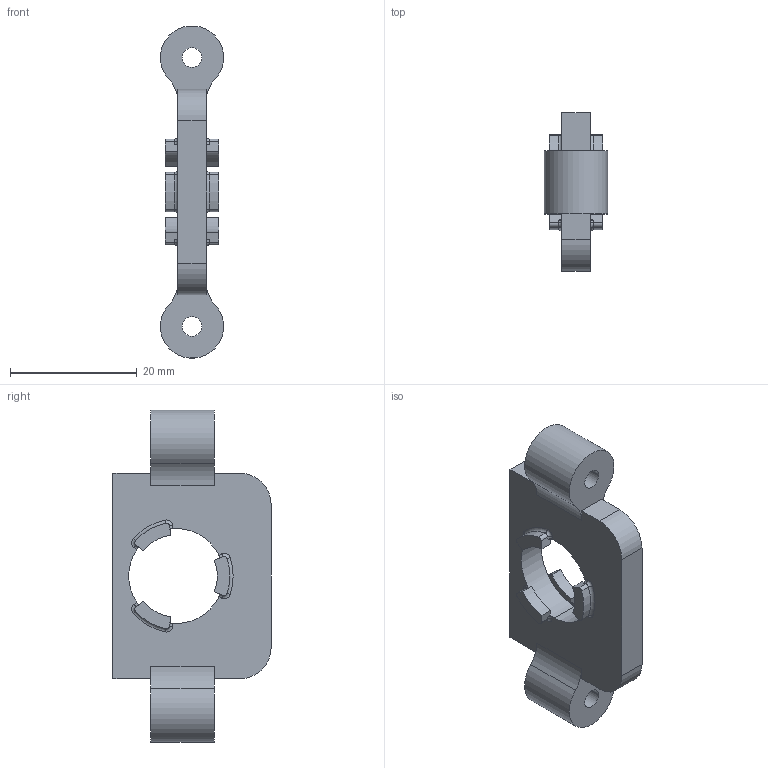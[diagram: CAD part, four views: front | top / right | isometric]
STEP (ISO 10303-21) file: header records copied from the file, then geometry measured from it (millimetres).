
FILE_DESCRIPTION((''),'2;1');
FILE_NAME('0000237152_PRT','2025-11-12T18:39:18',('Wyndorps'),(''),'CREO PARAMETRIC BY PTC INC, 2025010','CREO PARAMETRIC BY PTC INC, 2025010','');
FILE_SCHEMA(('CONFIG_CONTROL_DESIGN'));
Length unit declared in the file: millimetre
Products named in the file (1): 0000237152_PRT
Bounding box: 9.98 x 25 x 52.46 mm (x, y, z)
Volume: 4418.8 mm3; surface area: 3140.7 mm2
Topology: 1 solids, 1 shells, 104 faces, 282 edges, 180 vertices
Faces by surface type: cylinder 50, plane 36, torus 18
Entity records: 3450 total; most frequent: CARTESIAN_POINT 686, DIRECTION 608, ORIENTED_EDGE 564, EDGE_CURVE 282, AXIS2_PLACEMENT_3D 234, VERTEX_POINT 180, VECTOR 140, LINE 140
